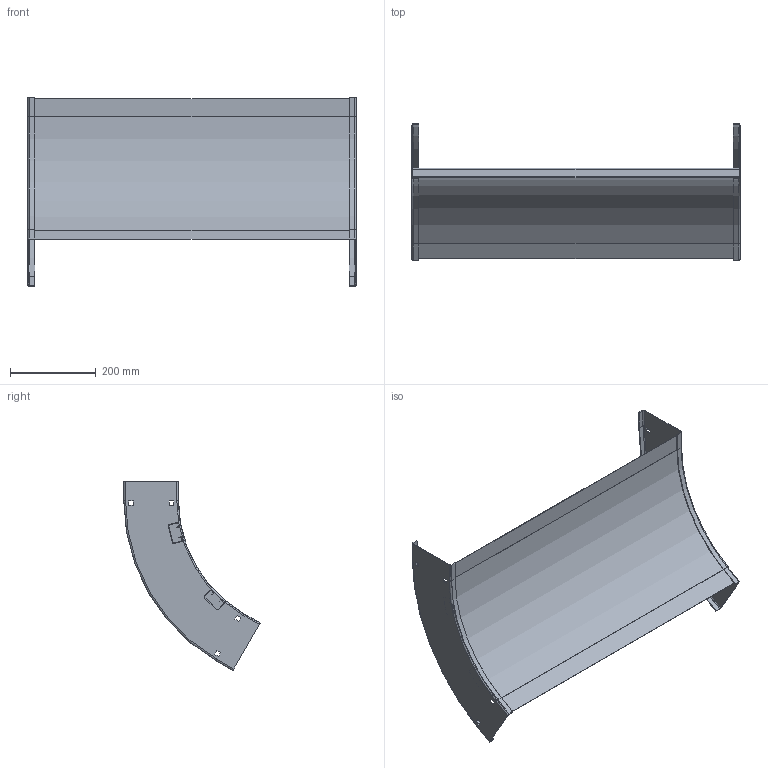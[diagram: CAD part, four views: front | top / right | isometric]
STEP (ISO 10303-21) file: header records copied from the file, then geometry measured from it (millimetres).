
FILE_DESCRIPTION((''),'2;1');
FILE_NAME('AUF530SVO6012_ASM','2010-02-02T',('erouzier'),(''),'PRO/ENGINEER BY PARAMETRIC TECHNOLOGY CORPORATION, 2008510','PRO/ENGINEER BY PARAMETRIC TECHNOLOGY CORPORATION, 2008510','');
FILE_SCHEMA(('CONFIG_CONTROL_DESIGN'));
Length unit declared in the file: inch
Products named in the file (4): CDS001417_5_60_12; CDS002159L30; CDS003665_60_12_30; AUF530SVO6012_ASM
Assembly tree (5 placements, depth 2):
  AUF530SVO6012_ASM
    CDS001417_5_60_12  x2
    CDS002159L30  x2
    CDS003665_60_12_30
Bounding box: 766.11 x 318.96 x 441.55 mm (x, y, z)
Volume: 821825.5 mm3; surface area: 1271191.7 mm2
Topology: 5 solids, 5 shells, 190 faces, 468 edges, 288 vertices
Faces by surface type: plane 134, cylinder 48, torus 8
Entity records: 3074 total; most frequent: DIRECTION 524, CARTESIAN_POINT 511, ORIENTED_EDGE 496, EDGE_CURVE 248, VECTOR 194, LINE 194, AXIS2_PLACEMENT_3D 165, VERTEX_POINT 152
